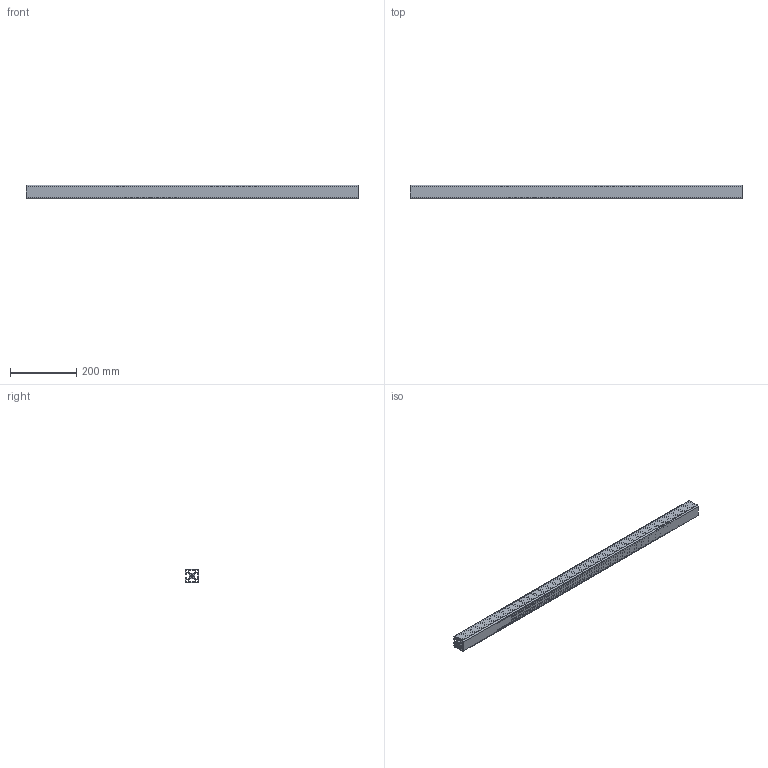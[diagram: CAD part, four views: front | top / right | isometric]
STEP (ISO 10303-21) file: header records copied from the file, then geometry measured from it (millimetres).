
FILE_DESCRIPTION (( 'STEP AP214' ), '1' );
FILE_NAME ('10402_PRO_40x40_L_3N.STEP', '2016-03-01T09:06:43', ( '' ), ( '' ), 'SwSTEP 2.0', 'SolidWorks 2015', '' );
FILE_SCHEMA (( 'AUTOMOTIVE_DESIGN' ));
Length unit declared in the file: millimetre
Products named in the file (1): 10402_PRO_40x40_L_3N
Bounding box: 1000 x 40 x 40 mm (x, y, z)
Volume: 708272 mm3; surface area: 500011.6 mm2
Topology: 1 solids, 1 shells, 148 faces, 438 edges, 292 vertices
Faces by surface type: cylinder 78, plane 70
Entity records: 5064 total; most frequent: DIRECTION 892, CARTESIAN_POINT 879, ORIENTED_EDGE 876, EDGE_CURVE 438, AXIS2_PLACEMENT_3D 305, VERTEX_POINT 292, LINE 282, VECTOR 282
